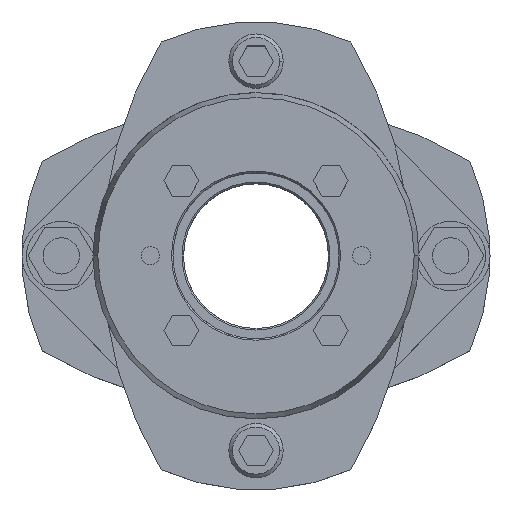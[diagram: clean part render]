
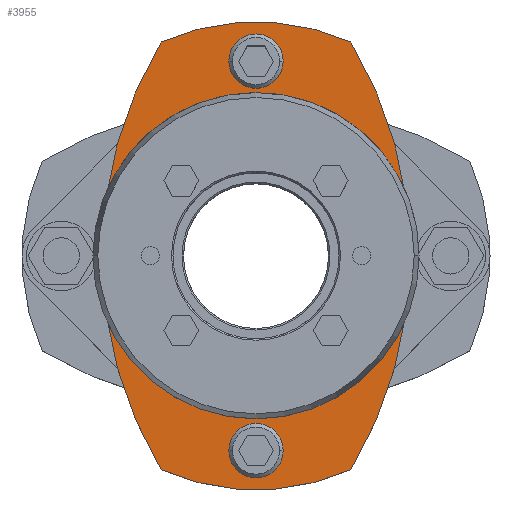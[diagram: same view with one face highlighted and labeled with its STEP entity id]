
A CAD part, top view. The second image highlights one B-rep face of the part: STEP entity #3955.
In plain terms, the highlighted planar face has unit normal (0, 0, 1).
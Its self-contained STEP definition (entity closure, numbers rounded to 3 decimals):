
#1387=CARTESIAN_POINT('',(-51.,0.,22.0));
#1388=VERTEX_POINT('',#1387);
#1404=CARTESIAN_POINT('',(-31.43,-70.841,22.0));
#1405=VERTEX_POINT('',#1404);
#1412=CARTESIAN_POINT('',(87.,0.,22.0));
#1413=DIRECTION('',(0.0,0.0,-1.0));
#1414=DIRECTION('',(-1.0,0.0,0.0));
#1415=AXIS2_PLACEMENT_3D('',#1412,#1413,#1414);
#1416=CIRCLE('',#1415,138.);
#1417=EDGE_CURVE('',#1405,#1388,#1416,.T.);
#1427=CARTESIAN_POINT('',(51.,0.,22.0));
#1428=VERTEX_POINT('',#1427);
#1437=CARTESIAN_POINT('',(31.43,-70.841,22.0));
#1438=VERTEX_POINT('',#1437);
#1439=CARTESIAN_POINT('',(-87.,0.,22.0));
#1440=DIRECTION('',(0.0,0.0,-1.0));
#1441=DIRECTION('',(-1.0,0.0,0.0));
#1442=AXIS2_PLACEMENT_3D('',#1439,#1440,#1441);
#1443=CIRCLE('',#1442,138.);
#1444=EDGE_CURVE('',#1428,#1438,#1443,.T.);
#1693=CARTESIAN_POINT('',(-41.0,0.,22.0));
#1694=VERTEX_POINT('',#1693);
#1744=CARTESIAN_POINT('',(41.0,0.,22.0));
#1745=VERTEX_POINT('',#1744);
#1752=CARTESIAN_POINT('',(0.,0.,22.0));
#1753=DIRECTION('',(0.0,0.0,-1.0));
#1754=DIRECTION('',(-1.0,0.0,0.0));
#1755=AXIS2_PLACEMENT_3D('',#1752,#1753,#1754);
#1756=CIRCLE('',#1755,41.0);
#1757=EDGE_CURVE('',#1694,#1745,#1756,.T.);
#1853=CARTESIAN_POINT('',(-9.,-64.5,22.0));
#1854=VERTEX_POINT('',#1853);
#1870=CARTESIAN_POINT('',(9.,-64.5,22.0));
#1871=VERTEX_POINT('',#1870);
#1878=CARTESIAN_POINT('',(0.,-64.5,22.0));
#1879=DIRECTION('',(0.0,0.0,-1.0));
#1880=DIRECTION('',(-1.0,0.0,0.0));
#1881=AXIS2_PLACEMENT_3D('',#1878,#1879,#1880);
#1882=CIRCLE('',#1881,9.0);
#1883=EDGE_CURVE('',#1854,#1871,#1882,.T.);
#1927=CARTESIAN_POINT('',(-9.,64.5,22.0));
#1928=VERTEX_POINT('',#1927);
#1944=CARTESIAN_POINT('',(9.,64.5,22.0));
#1945=VERTEX_POINT('',#1944);
#1952=CARTESIAN_POINT('',(0.,64.5,22.0));
#1953=DIRECTION('',(0.0,0.0,-1.0));
#1954=DIRECTION('',(-1.0,0.0,0.0));
#1955=AXIS2_PLACEMENT_3D('',#1952,#1953,#1954);
#1956=CIRCLE('',#1955,9.0);
#1957=EDGE_CURVE('',#1928,#1945,#1956,.T.);
#2496=CARTESIAN_POINT('',(0.,64.5,22.0));
#2497=DIRECTION('',(0.0,0.0,-1.0));
#2498=DIRECTION('',(-1.0,0.0,0.0));
#2499=AXIS2_PLACEMENT_3D('',#2496,#2497,#2498);
#2500=CIRCLE('',#2499,9.0);
#2501=EDGE_CURVE('',#1945,#1928,#2500,.T.);
#2556=CARTESIAN_POINT('',(0.,-64.5,22.0));
#2557=DIRECTION('',(0.0,0.0,-1.0));
#2558=DIRECTION('',(-1.0,0.0,0.0));
#2559=AXIS2_PLACEMENT_3D('',#2556,#2557,#2558);
#2560=CIRCLE('',#2559,9.0);
#2561=EDGE_CURVE('',#1871,#1854,#2560,.T.);
#3628=CARTESIAN_POINT('',(0.,0.,22.0));
#3629=DIRECTION('',(0.0,0.0,-1.0));
#3630=DIRECTION('',(-1.0,0.0,0.0));
#3631=AXIS2_PLACEMENT_3D('',#3628,#3629,#3630);
#3632=CIRCLE('',#3631,41.0);
#3633=EDGE_CURVE('',#1745,#1694,#3632,.T.);
#3849=CARTESIAN_POINT('',(-31.43,70.841,22.0));
#3850=VERTEX_POINT('',#3849);
#3851=CARTESIAN_POINT('',(31.43,70.841,22.0));
#3852=VERTEX_POINT('',#3851);
#3853=CARTESIAN_POINT('',(0.0,0.,22.0));
#3854=DIRECTION('',(0.0,0.0,-1.0));
#3855=DIRECTION('',(-1.0,0.0,0.0));
#3856=AXIS2_PLACEMENT_3D('',#3853,#3854,#3855);
#3857=CIRCLE('',#3856,77.5);
#3858=EDGE_CURVE('',#3850,#3852,#3857,.T.);
#3884=CARTESIAN_POINT('',(-87.,0.,22.0));
#3885=DIRECTION('',(0.0,0.0,-1.0));
#3886=DIRECTION('',(-1.0,0.0,0.0));
#3887=AXIS2_PLACEMENT_3D('',#3884,#3885,#3886);
#3888=CIRCLE('',#3887,138.);
#3889=EDGE_CURVE('',#3852,#1428,#3888,.T.);
#3899=CARTESIAN_POINT('',(0.0,0.,22.0));
#3900=DIRECTION('',(0.0,0.0,-1.0));
#3901=DIRECTION('',(-1.0,0.0,0.0));
#3902=AXIS2_PLACEMENT_3D('',#3899,#3900,#3901);
#3903=CIRCLE('',#3902,77.5);
#3904=EDGE_CURVE('',#1438,#1405,#3903,.T.);
#3918=CARTESIAN_POINT('',(87.,0.,22.0));
#3919=DIRECTION('',(0.0,0.0,-1.0));
#3920=DIRECTION('',(-1.0,0.0,0.0));
#3921=AXIS2_PLACEMENT_3D('',#3918,#3919,#3920);
#3922=CIRCLE('',#3921,138.);
#3923=EDGE_CURVE('',#1388,#3850,#3922,.T.);
#3930=CARTESIAN_POINT('',(0.,0.,22.0));
#3931=DIRECTION('',(0.0,0.0,1.0));
#3932=DIRECTION('',(-1.0,0.0,0.0));
#3933=AXIS2_PLACEMENT_3D('',#3930,#3931,#3932);
#3934=PLANE('',#3933);
#3935=ORIENTED_EDGE('',*,*,#3858,.F.);
#3936=ORIENTED_EDGE('',*,*,#3923,.F.);
#3937=ORIENTED_EDGE('',*,*,#1417,.F.);
#3938=ORIENTED_EDGE('',*,*,#3904,.F.);
#3939=ORIENTED_EDGE('',*,*,#1444,.F.);
#3940=ORIENTED_EDGE('',*,*,#3889,.F.);
#3941=EDGE_LOOP('',(#3935,#3936,#3937,#3938,#3939,#3940));
#3942=FACE_OUTER_BOUND('',#3941,.T.);
#3943=ORIENTED_EDGE('',*,*,#1957,.T.);
#3944=ORIENTED_EDGE('',*,*,#2501,.T.);
#3945=EDGE_LOOP('',(#3943,#3944));
#3946=FACE_BOUND('',#3945,.T.);
#3947=ORIENTED_EDGE('',*,*,#1883,.T.);
#3948=ORIENTED_EDGE('',*,*,#2561,.T.);
#3949=EDGE_LOOP('',(#3947,#3948));
#3950=FACE_BOUND('',#3949,.T.);
#3951=ORIENTED_EDGE('',*,*,#1757,.T.);
#3952=ORIENTED_EDGE('',*,*,#3633,.T.);
#3953=EDGE_LOOP('',(#3951,#3952));
#3954=FACE_BOUND('',#3953,.T.);
#3955=ADVANCED_FACE('',(#3942,#3946,#3950,#3954),#3934,.T.);
